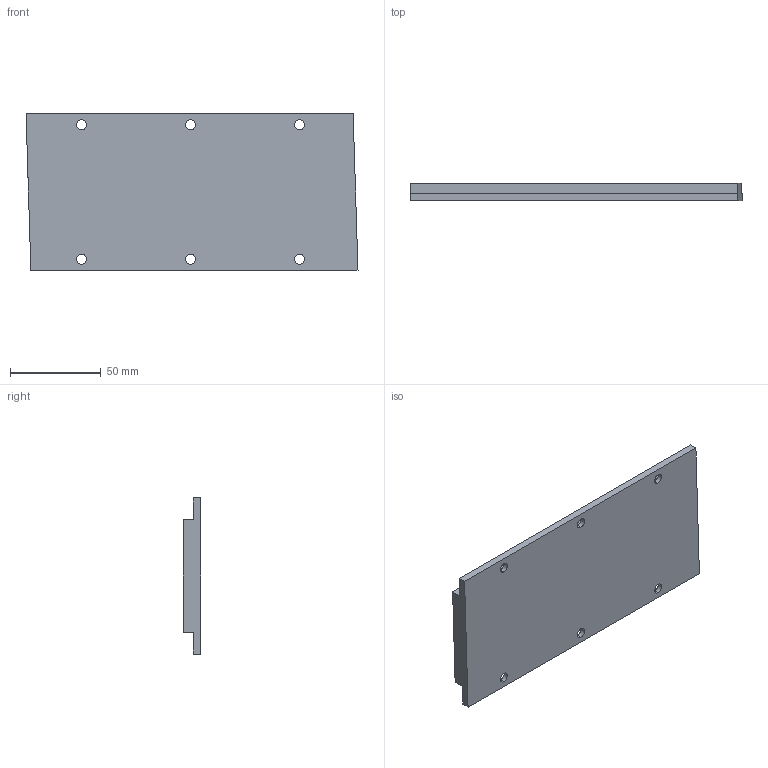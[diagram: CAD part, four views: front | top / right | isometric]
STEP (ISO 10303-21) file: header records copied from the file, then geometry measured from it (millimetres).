
FILE_DESCRIPTION (( 'STEP AP214' ), '1' );
FILE_NAME ('LMSA2S2E.STEP', '2013-07-17T08:19:27', ( ' ' ), ( '' ), 'SwSTEP 2.0', 'SolidWorks 2010', '' );
FILE_SCHEMA (( 'AUTOMOTIVE_DESIGN' ));
Length unit declared in the file: millimetre
Products named in the file (1): LMSA2S2E
Bounding box: 182.7 x 9.7 x 86 mm (x, y, z)
Volume: 124885.3 mm3; surface area: 36124.4 mm2
Topology: 1 solids, 1 shells, 67 faces, 171 edges, 114 vertices
Faces by surface type: plane 32, cylinder 24, bspline 11
Entity records: 2881 total; most frequent: CARTESIAN_POINT 1220, ORIENTED_EDGE 342, DIRECTION 311, EDGE_CURVE 171, VERTEX_POINT 114, AXIS2_PLACEMENT_3D 105, LINE 101, VECTOR 101
